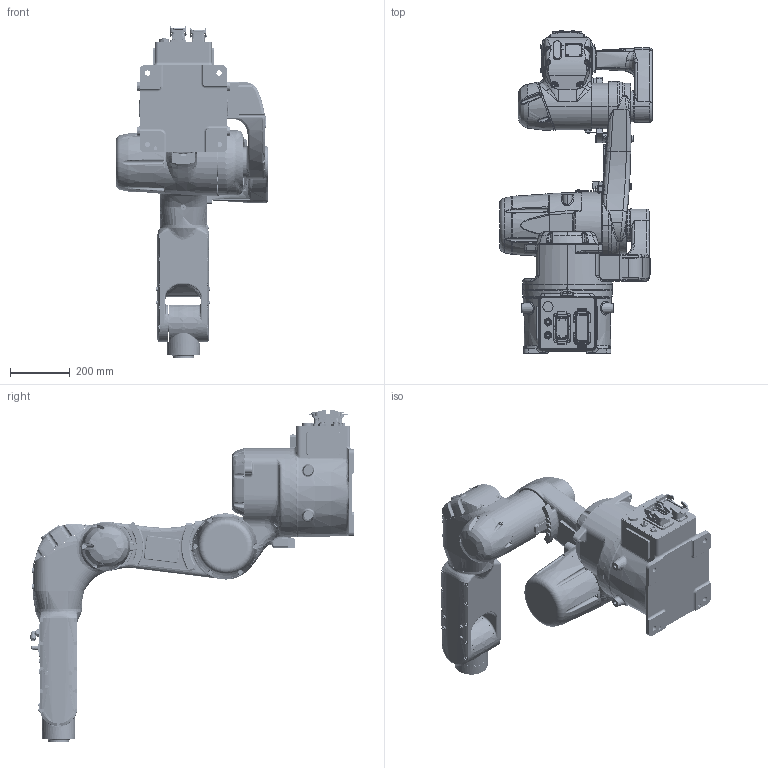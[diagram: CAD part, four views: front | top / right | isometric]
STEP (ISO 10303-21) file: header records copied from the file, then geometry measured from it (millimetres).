
FILE_DESCRIPTION (( 'STEP AP203' ), '1' );
FILE_NAME ('ER20-1100V1杅耀V1.1.STEP', '2021-02-23T05:55:50', ( 'china' ), ( 'china' ), 'SwSTEP 2.0', 'SolidWorks 2017', '' );
FILE_SCHEMA (( 'CONFIG_CONTROL_DESIGN' ));
Length unit declared in the file: millimetre
Products named in the file (15): 复件 手腕部分^ER20-1100V1数模V1.1; 复件 末端法兰^ER20-1100V1数模V1.1; ER20-1100V1杅耀V1.1; 复件 底座部分^ER20-1100V1数模V1.1; 复件 转座部分^ER20-1100V1数模V1.1; 复件 大臂部分^ER20-1100V1数模V1.1; 复件 电机座部分^ER20-1100V1数模V1.1; 复件 小臂部分^ER20-1100V1数模V1.1
Assembly tree (7 placements, depth 2):
  复件 手腕部分^ER20-1100V1数模V1.1
  复件 末端法兰^ER20-1100V1数模V1.1
  ER20-1100V1杅耀V1.1
    复件 底座部分^ER20-1100V1数模V1.1
    复件 转座部分^ER20-1100V1数模V1.1
    复件 大臂部分^ER20-1100V1数模V1.1
    复件 电机座部分^ER20-1100V1数模V1.1
    复件 小臂部分^ER20-1100V1数模V1.1
    复件 手腕部分^ER20-1100V1数模V1.1
    复件 末端法兰^ER20-1100V1数模V1.1
  复件 底座部分^ER20-1100V1数模V1.1
  复件 转座部分^ER20-1100V1数模V1.1
Bounding box: 512.4 x 1084.5 x 1113.81 mm (x, y, z)
Volume: 74200194.7 mm3; surface area: 2599433.1 mm2
Topology: 16 solids, 17 shells, 4833 faces, 12147 edges, 7514 vertices
Faces by surface type: plane 1530, cylinder 1483, bspline 1027, torus 381, cone 366, sphere 46
Entity records: 246688 total; most frequent: CARTESIAN_POINT 137934, ORIENTED_EDGE 24100, DIRECTION 20426, EDGE_CURVE 12050, AXIS2_PLACEMENT_3D 8028, VERTEX_POINT 7512, EDGE_LOOP 5184, ADVANCED_FACE 4833
